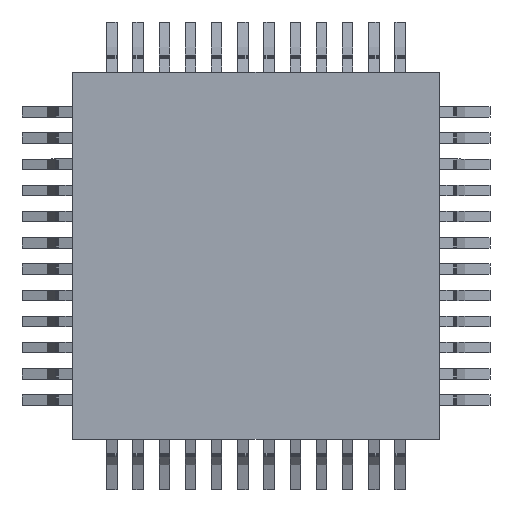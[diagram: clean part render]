
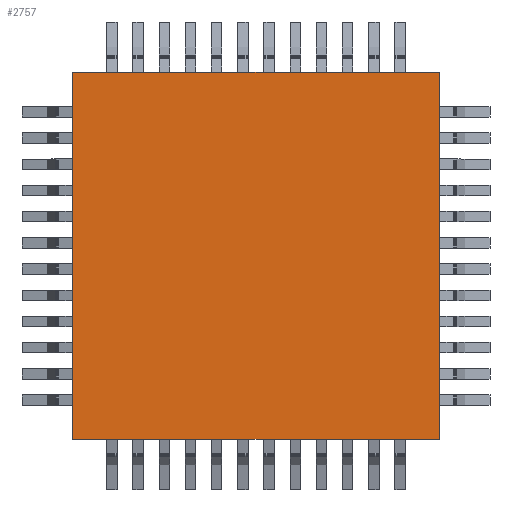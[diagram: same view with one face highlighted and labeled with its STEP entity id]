
A CAD part, top view. The second image highlights one B-rep face of the part: STEP entity #2757.
In plain terms, the highlighted planar face has unit normal (0, 0, 1).
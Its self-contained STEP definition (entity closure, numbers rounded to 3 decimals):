
#24 = VERTEX_POINT('',#25);
#25 = CARTESIAN_POINT('',(-3.5,-3.5,1.6));
#32 = PLANE('',#33);
#33 = AXIS2_PLACEMENT_3D('',#34,#35,#36);
#34 = CARTESIAN_POINT('',(-3.5,-3.5,0.));
#35 = DIRECTION('',(1.,0.,0.));
#36 = DIRECTION('',(0.,0.,1.));
#44 = PLANE('',#45);
#45 = AXIS2_PLACEMENT_3D('',#46,#47,#48);
#46 = CARTESIAN_POINT('',(-3.5,-3.5,0.));
#47 = DIRECTION('',(0.,1.,0.));
#48 = DIRECTION('',(0.,0.,1.));
#85 = VERTEX_POINT('',#86);
#86 = CARTESIAN_POINT('',(-3.5,3.5,1.6));
#100 = PLANE('',#101);
#101 = AXIS2_PLACEMENT_3D('',#102,#103,#104);
#102 = CARTESIAN_POINT('',(-3.5,3.5,0.));
#103 = DIRECTION('',(0.,1.,0.));
#104 = DIRECTION('',(0.,0.,1.));
#112 = EDGE_CURVE('',#24,#85,#113,.T.);
#113 = SURFACE_CURVE('',#114,(#118,#125),.PCURVE_S1.);
#114 = LINE('',#115,#116);
#115 = CARTESIAN_POINT('',(-3.5,-3.5,1.6));
#116 = VECTOR('',#117,1.);
#117 = DIRECTION('',(0.,1.,0.));
#118 = PCURVE('',#32,#119);
#119 = DEFINITIONAL_REPRESENTATION('',(#120),#124);
#120 = LINE('',#121,#122);
#121 = CARTESIAN_POINT('',(1.6,0.));
#122 = VECTOR('',#123,1.);
#123 = DIRECTION('',(0.,-1.));
#124 = ( GEOMETRIC_REPRESENTATION_CONTEXT(2) 
PARAMETRIC_REPRESENTATION_CONTEXT() REPRESENTATION_CONTEXT('2D SPACE',''
  ) );
#125 = PCURVE('',#126,#131);
#126 = PLANE('',#127);
#127 = AXIS2_PLACEMENT_3D('',#128,#129,#130);
#128 = CARTESIAN_POINT('',(-3.5,-3.5,1.6));
#129 = DIRECTION('',(0.,0.,1.));
#130 = DIRECTION('',(1.,0.,0.));
#131 = DEFINITIONAL_REPRESENTATION('',(#132),#136);
#132 = LINE('',#133,#134);
#133 = CARTESIAN_POINT('',(0.,0.));
#134 = VECTOR('',#135,1.);
#135 = DIRECTION('',(0.,1.));
#136 = ( GEOMETRIC_REPRESENTATION_CONTEXT(2) 
PARAMETRIC_REPRESENTATION_CONTEXT() REPRESENTATION_CONTEXT('2D SPACE',''
  ) );
#1437 = EDGE_CURVE('',#24,#1438,#1440,.T.);
#1438 = VERTEX_POINT('',#1439);
#1439 = CARTESIAN_POINT('',(3.5,-3.5,1.6));
#1440 = SURFACE_CURVE('',#1441,(#1445,#1452),.PCURVE_S1.);
#1441 = LINE('',#1442,#1443);
#1442 = CARTESIAN_POINT('',(-3.5,-3.5,1.6));
#1443 = VECTOR('',#1444,1.);
#1444 = DIRECTION('',(1.,0.,0.));
#1445 = PCURVE('',#44,#1446);
#1446 = DEFINITIONAL_REPRESENTATION('',(#1447),#1451);
#1447 = LINE('',#1448,#1449);
#1448 = CARTESIAN_POINT('',(1.6,0.));
#1449 = VECTOR('',#1450,1.);
#1450 = DIRECTION('',(0.,1.));
#1451 = ( GEOMETRIC_REPRESENTATION_CONTEXT(2) 
PARAMETRIC_REPRESENTATION_CONTEXT() REPRESENTATION_CONTEXT('2D SPACE',''
  ) );
#1452 = PCURVE('',#126,#1453);
#1453 = DEFINITIONAL_REPRESENTATION('',(#1454),#1458);
#1454 = LINE('',#1455,#1456);
#1455 = CARTESIAN_POINT('',(0.,0.));
#1456 = VECTOR('',#1457,1.);
#1457 = DIRECTION('',(1.,0.));
#1458 = ( GEOMETRIC_REPRESENTATION_CONTEXT(2) 
PARAMETRIC_REPRESENTATION_CONTEXT() REPRESENTATION_CONTEXT('2D SPACE',''
  ) );
#1474 = PLANE('',#1475);
#1475 = AXIS2_PLACEMENT_3D('',#1476,#1477,#1478);
#1476 = CARTESIAN_POINT('',(3.5,-3.5,0.));
#1477 = DIRECTION('',(1.,0.,0.));
#1478 = DIRECTION('',(0.,0.,1.));
#2757 = ADVANCED_FACE('',(#2758),#126,.T.);
#2758 = FACE_BOUND('',#2759,.T.);
#2759 = EDGE_LOOP('',(#2760,#2761,#2762,#2785));
#2760 = ORIENTED_EDGE('',*,*,#112,.F.);
#2761 = ORIENTED_EDGE('',*,*,#1437,.T.);
#2762 = ORIENTED_EDGE('',*,*,#2763,.T.);
#2763 = EDGE_CURVE('',#1438,#2764,#2766,.T.);
#2764 = VERTEX_POINT('',#2765);
#2765 = CARTESIAN_POINT('',(3.5,3.5,1.6));
#2766 = SURFACE_CURVE('',#2767,(#2771,#2778),.PCURVE_S1.);
#2767 = LINE('',#2768,#2769);
#2768 = CARTESIAN_POINT('',(3.5,-3.5,1.6));
#2769 = VECTOR('',#2770,1.);
#2770 = DIRECTION('',(0.,1.,0.));
#2771 = PCURVE('',#126,#2772);
#2772 = DEFINITIONAL_REPRESENTATION('',(#2773),#2777);
#2773 = LINE('',#2774,#2775);
#2774 = CARTESIAN_POINT('',(7.,0.));
#2775 = VECTOR('',#2776,1.);
#2776 = DIRECTION('',(0.,1.));
#2777 = ( GEOMETRIC_REPRESENTATION_CONTEXT(2) 
PARAMETRIC_REPRESENTATION_CONTEXT() REPRESENTATION_CONTEXT('2D SPACE',''
  ) );
#2778 = PCURVE('',#1474,#2779);
#2779 = DEFINITIONAL_REPRESENTATION('',(#2780),#2784);
#2780 = LINE('',#2781,#2782);
#2781 = CARTESIAN_POINT('',(1.6,0.));
#2782 = VECTOR('',#2783,1.);
#2783 = DIRECTION('',(0.,-1.));
#2784 = ( GEOMETRIC_REPRESENTATION_CONTEXT(2) 
PARAMETRIC_REPRESENTATION_CONTEXT() REPRESENTATION_CONTEXT('2D SPACE',''
  ) );
#2785 = ORIENTED_EDGE('',*,*,#2786,.F.);
#2786 = EDGE_CURVE('',#85,#2764,#2787,.T.);
#2787 = SURFACE_CURVE('',#2788,(#2792,#2799),.PCURVE_S1.);
#2788 = LINE('',#2789,#2790);
#2789 = CARTESIAN_POINT('',(-3.5,3.5,1.6));
#2790 = VECTOR('',#2791,1.);
#2791 = DIRECTION('',(1.,0.,0.));
#2792 = PCURVE('',#126,#2793);
#2793 = DEFINITIONAL_REPRESENTATION('',(#2794),#2798);
#2794 = LINE('',#2795,#2796);
#2795 = CARTESIAN_POINT('',(0.,7.));
#2796 = VECTOR('',#2797,1.);
#2797 = DIRECTION('',(1.,0.));
#2798 = ( GEOMETRIC_REPRESENTATION_CONTEXT(2) 
PARAMETRIC_REPRESENTATION_CONTEXT() REPRESENTATION_CONTEXT('2D SPACE',''
  ) );
#2799 = PCURVE('',#100,#2800);
#2800 = DEFINITIONAL_REPRESENTATION('',(#2801),#2805);
#2801 = LINE('',#2802,#2803);
#2802 = CARTESIAN_POINT('',(1.6,0.));
#2803 = VECTOR('',#2804,1.);
#2804 = DIRECTION('',(0.,1.));
#2805 = ( GEOMETRIC_REPRESENTATION_CONTEXT(2) 
PARAMETRIC_REPRESENTATION_CONTEXT() REPRESENTATION_CONTEXT('2D SPACE',''
  ) );
